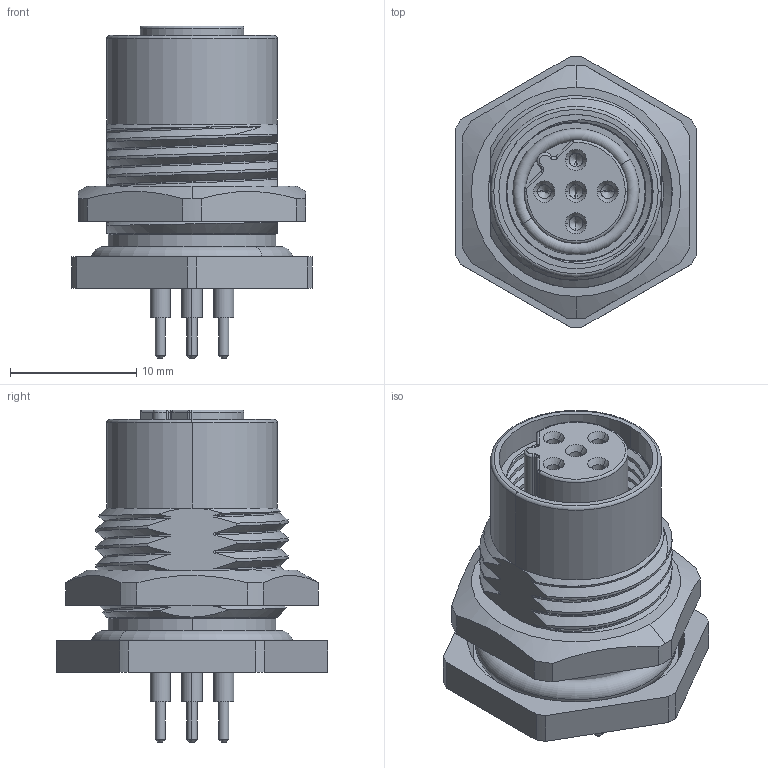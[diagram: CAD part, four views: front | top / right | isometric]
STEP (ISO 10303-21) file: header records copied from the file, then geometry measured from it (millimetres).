
FILE_DESCRIPTION (( 'STEP AP203' ), '1' );
FILE_NAME ('FP-217588.STEP', '2021-05-13T05:08:24', ( '' ), ( '' ), 'SwSTEP 2.0', 'SolidWorks 2013', '' );
FILE_SCHEMA (( 'CONFIG_CONTROL_DESIGN' ));
Length unit declared in the file: millimetre
Products named in the file (1): FP-217588
Bounding box: 19 x 21.5 x 26.25 mm (x, y, z)
Volume: 2944.3 mm3; surface area: 5396.5 mm2
Topology: 11 solids, 11 shells, 388 faces, 949 edges, 590 vertices
Faces by surface type: cylinder 155, plane 93, cone 63, bspline 42, torus 33, sphere 2
Entity records: 21345 total; most frequent: CARTESIAN_POINT 12555, ORIENTED_EDGE 1874, DIRECTION 1798, EDGE_CURVE 937, AXIS2_PLACEMENT_3D 731, VERTEX_POINT 590, EDGE_LOOP 431, FACE_OUTER_BOUND 388
